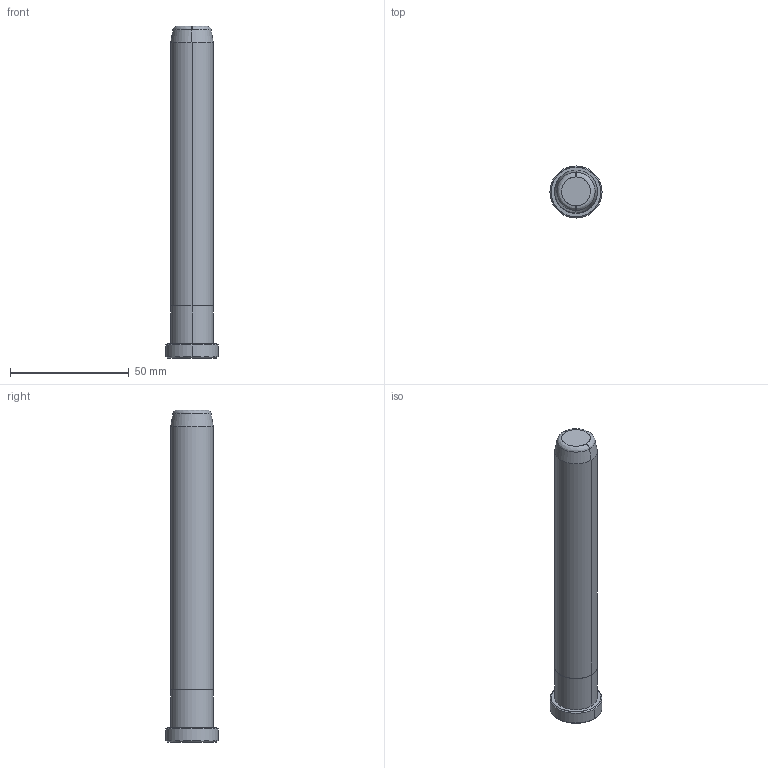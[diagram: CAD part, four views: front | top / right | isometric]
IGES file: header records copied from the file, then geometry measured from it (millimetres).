
Start section: START RECORD GO HERE.
Global section: file name: B82818140.igs; native system: DASSAULT SYSTEMES CATIA V5 R20 - www.3ds.com; preprocessor: CATIA Version 5 Release 20 ; author: Utente; organization: NB04-ASUS; date: 20200419.173702; units: millimetre
Bounding box: 22 x 22 x 140 mm (x, y, z)
Surface area: 8597 mm2 (no closed solid volume)
Topology: 0 solids, 0 shells, 20 faces, 80 edges, 80 vertices
Faces by surface type: revolution 16, plane 4
